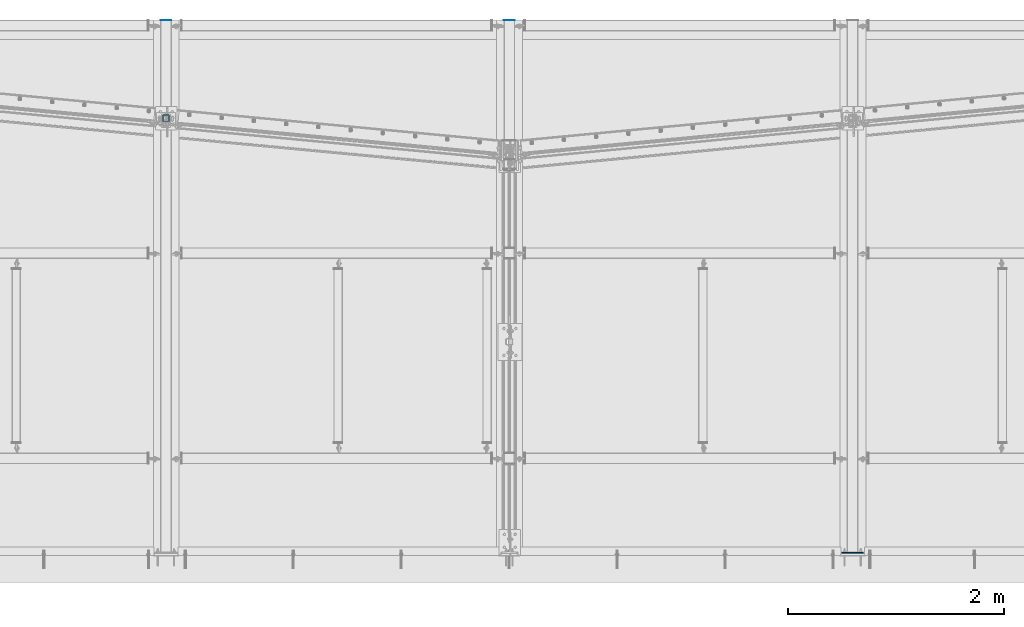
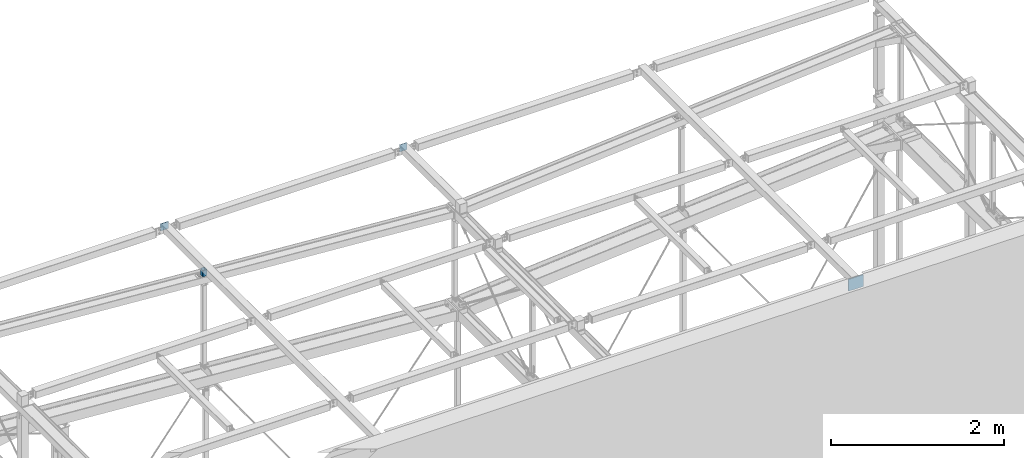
# One storey, part 80 of 271: 4 beams, 3 elements without a shape of their own.
"""IFC2X3 building model written with IfcOpenShell, lengths in millimetres."""

from ifc_helpers import new_model, si_unit, frame, origin_with_axes, origin_2d_with_axis, place, context, subcontext, project, spatial, rectangle, hollow_rectangle, extrude, clip, halfspace, material, type_object, element, aggregate, save


model = new_model("IFC2X3")

# Units and contexts
model_context = context("Model", 3, precision=1e-05, world=origin_with_axes())
body_context = subcontext(model_context, "Body", "Model", "MODEL_VIEW")
ifc_project = project(units=[si_unit("LENGTHUNIT", "METRE", prefix="MILLI"), si_unit("AREAUNIT", "SQUARE_METRE"), si_unit("VOLUMEUNIT", "CUBIC_METRE"), si_unit("MASSUNIT", "GRAM", prefix="KILO"), si_unit("TIMEUNIT", "SECOND"), si_unit("PLANEANGLEUNIT", "RADIAN"), si_unit("SOLIDANGLEUNIT", "STERADIAN"), si_unit("THERMODYNAMICTEMPERATUREUNIT", "DEGREE_CELSIUS"), si_unit("LUMINOUSINTENSITYUNIT", "LUMEN")], contexts=[model_context])

# Site, building, storey
site_placement = place(None, origin_with_axes())
site = spatial("IfcSite", under=ifc_project, at=site_placement, Name="Undefined", CompositionType="ELEMENT")
building_placement = place(site_placement, origin_with_axes())
building = spatial("IfcBuilding", under=site, at=building_placement, Name="Undefined", CompositionType="ELEMENT")
storey_placement = place(building_placement, origin_with_axes())
storey = spatial("IfcBuildingStorey", under=building, at=storey_placement, Name="Undefined", CompositionType="ELEMENT", Elevation=0.0)

# Assembly, beam
assembly_1_placement = place(storey_placement, origin_with_axes())
assembly_1 = element("IfcElementAssembly", 1, at=assembly_1_placement, inside=storey, AssemblyPlace="NOTDEFINED", PredefinedType="RIGID_FRAME")
ifc_material = material(Name="STEEL/S355JR")
beam_type_1 = type_object("IfcBeamType", Name="SHS60*3", PredefinedType="NOTDEFINED")
beam_1_placement = place(assembly_1_placement, frame((3168.37568709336, 4050.32498425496, 20006.9999999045), z_axis=(0.0, 1.0, 0.0), x_axis=(0.0, 0.0, 1.0)))
beam_1 = element("IfcBeam", 2, at=beam_1_placement, type_object=beam_type_1, material=ifc_material, Name="TĘŻNIK", ObjectType="SHS60*3", context=body_context, shape_type="Clipping", body=[
    clip(extrude(hollow_rectangle(XDim=60.0, YDim=60.0, WallThickness=3.0, InnerFilletRadius=3.0, OuterFilletRadius=6.0, at=origin_2d_with_axis()), frame((97.3500000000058, 0.0, 0.0), z_axis=(-1.0, 0.0, 1.38777878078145e-17), x_axis=(0.0, -1.0, 0.0)), (0.0, 0.0, 1.0), 97.35), halfspace(frame((11.0000000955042, 0.0, -30.0), z_axis=(1.0, 0.0, 0.0), x_axis=(0.0, -1.0, 0.0)), True)),
])

assembly_2_placement = place(storey_placement, origin_with_axes())
assembly_2 = element("IfcElementAssembly", 3, at=assembly_2_placement, inside=storey, AssemblyPlace="NOTDEFINED", PredefinedType="RIGID_FRAME")
beam_type_2 = type_object("IfcBeamType", Name="BL4*100", PredefinedType="NOTDEFINED")
beam_2_placement = place(assembly_2_placement, frame((6298.37568736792, 4957.32498425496, 20154.3499999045), z_axis=(0.0, 0.0, 1.0), x_axis=(1.0, 0.0, 0.0)))
beam_2 = element("IfcBeam", 4, at=beam_2_placement, type_object=beam_type_2, material=ifc_material, Name="BLACHA", ObjectType="BL4*100", context=body_context, shape_type="SweptSolid", body=[
    extrude(rectangle(XDim=4.0, YDim=100.0, at=origin_2d_with_axis()), frame((100.0, 0.0, 0.0), z_axis=(-1.0, 0.0, 1.38777878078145e-17), x_axis=(0.0, -1.0, 0.0)), (0.0, 0.0, 1.0), 100.0),
])
aggregate(assembly_2, [beam_2])

# Beam
beam_3_placement = place(assembly_1_placement, frame((3118.37568709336, 4957.32498425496, 20154.3499999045), z_axis=(0.0, 0.0, 1.0), x_axis=(1.0, 0.0, 0.0)))
beam_3 = element("IfcBeam", 5, at=beam_3_placement, type_object=beam_type_2, material=ifc_material, Name="BLACHA", ObjectType="BL4*100", context=body_context, shape_type="SweptSolid", body=[
    extrude(rectangle(XDim=4.0, YDim=100.0, at=origin_2d_with_axis()), frame((100.0, 0.0, 0.0), z_axis=(-1.0, 0.0, 1.38777878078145e-17), x_axis=(0.0, -1.0, 0.0)), (0.0, 0.0, 1.0), 100.0),
])

aggregate(assembly_1, [beam_1, beam_3])

# Assembly, beam
assembly_3_placement = place(storey_placement, origin_with_axes())
assembly_3 = element("IfcElementAssembly", 6, at=assembly_3_placement, inside=storey, AssemblyPlace="NOTDEFINED", PredefinedType="RIGID_FRAME")
beam_type_3 = type_object("IfcBeamType", Name="BL12*165", PredefinedType="NOTDEFINED")
beam_4_placement = place(assembly_3_placement, frame((9628.37568709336, 25.3249842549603, 20121.8499999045), z_axis=(0.0, 0.0, 1.0), x_axis=(-1.0, 0.0, 1.38777878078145e-17)))
beam_4 = element("IfcBeam", 7, at=beam_4_placement, type_object=beam_type_3, material=ifc_material, Name="BLACHA_PODSTAWY", ObjectType="BL12*165", context=body_context, shape_type="SweptSolid", body=[
    extrude(rectangle(XDim=12.0, YDim=165.0, at=origin_2d_with_axis()), frame((200.0, 0.0, 0.0), z_axis=(-1.0, 0.0, 1.38777878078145e-17), x_axis=(0.0, -1.0, 0.0)), (0.0, 0.0, 1.0), 200.0),
])
aggregate(assembly_3, [beam_4])

save(model, "model.ifc")
